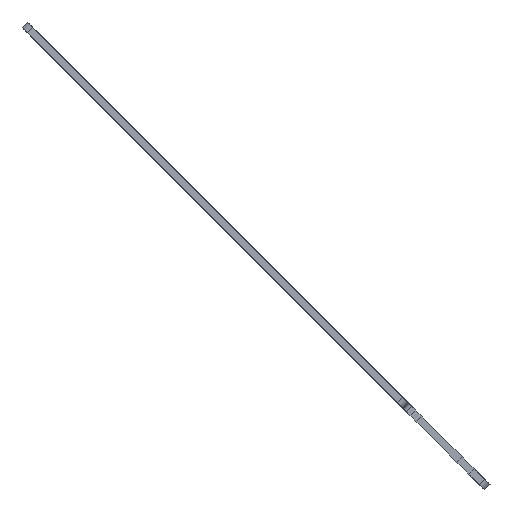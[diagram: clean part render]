
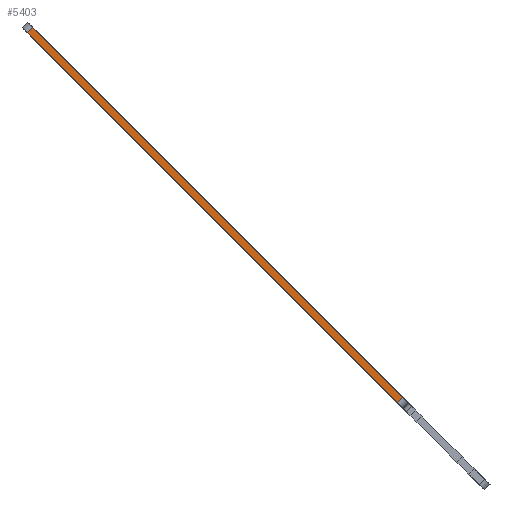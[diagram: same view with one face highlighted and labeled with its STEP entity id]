
A CAD part, left-side view. The second image highlights one B-rep face of the part: STEP entity #5403.
In plain terms, the highlighted planar face has unit normal (-1, 0, 0).
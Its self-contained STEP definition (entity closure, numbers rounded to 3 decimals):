
#175=PLANE('',#5759);
#360=FACE_OUTER_BOUND('',#659,.T.);
#659=EDGE_LOOP('',(#3882,#3883,#3884,#3885));
#1420=LINE('',#8320,#1939);
#1421=LINE('',#8323,#1940);
#1422=LINE('',#8325,#1941);
#1423=LINE('',#8326,#1942);
#1939=VECTOR('',#6573,10.);
#1940=VECTOR('',#6576,10.);
#1941=VECTOR('',#6577,10.);
#1942=VECTOR('',#6578,10.);
#2460=VERTEX_POINT('',#8313);
#2463=VERTEX_POINT('',#8318);
#2464=VERTEX_POINT('',#8322);
#2465=VERTEX_POINT('',#8324);
#3017=EDGE_CURVE('',#2463,#2460,#1420,.T.);
#3018=EDGE_CURVE('',#2464,#2463,#1421,.T.);
#3019=EDGE_CURVE('',#2465,#2464,#1422,.T.);
#3020=EDGE_CURVE('',#2460,#2465,#1423,.T.);
#3882=ORIENTED_EDGE('',*,*,#3017,.F.);
#3883=ORIENTED_EDGE('',*,*,#3018,.F.);
#3884=ORIENTED_EDGE('',*,*,#3019,.F.);
#3885=ORIENTED_EDGE('',*,*,#3020,.F.);
#5403=ADVANCED_FACE('',(#360),#175,.T.);
#5759=AXIS2_PLACEMENT_3D('',#8321,#6574,#6575);
#6573=DIRECTION('',(0.,-0.707,0.707));
#6574=DIRECTION('center_axis',(-1.,0.,0.));
#6575=DIRECTION('ref_axis',(0.,-0.707,-0.707));
#6576=DIRECTION('',(0.,0.707,0.707));
#6577=DIRECTION('',(0.,0.707,-0.707));
#6578=DIRECTION('',(0.,-0.707,-0.707));
#8313=CARTESIAN_POINT('',(-272.136,453.239,154.084));
#8318=CARTESIAN_POINT('',(-272.136,455.36,151.963));
#8320=CARTESIAN_POINT('',(-272.136,455.36,151.963));
#8321=CARTESIAN_POINT('Origin',(-272.136,457.482,154.084));
#8322=CARTESIAN_POINT('',(-272.136,306.868,3.47));
#8323=CARTESIAN_POINT('',(-272.136,304.747,1.349));
#8324=CARTESIAN_POINT('',(-272.136,304.747,5.592));
#8325=CARTESIAN_POINT('',(-272.136,306.868,3.47));
#8326=CARTESIAN_POINT('',(-272.136,302.625,3.47));
